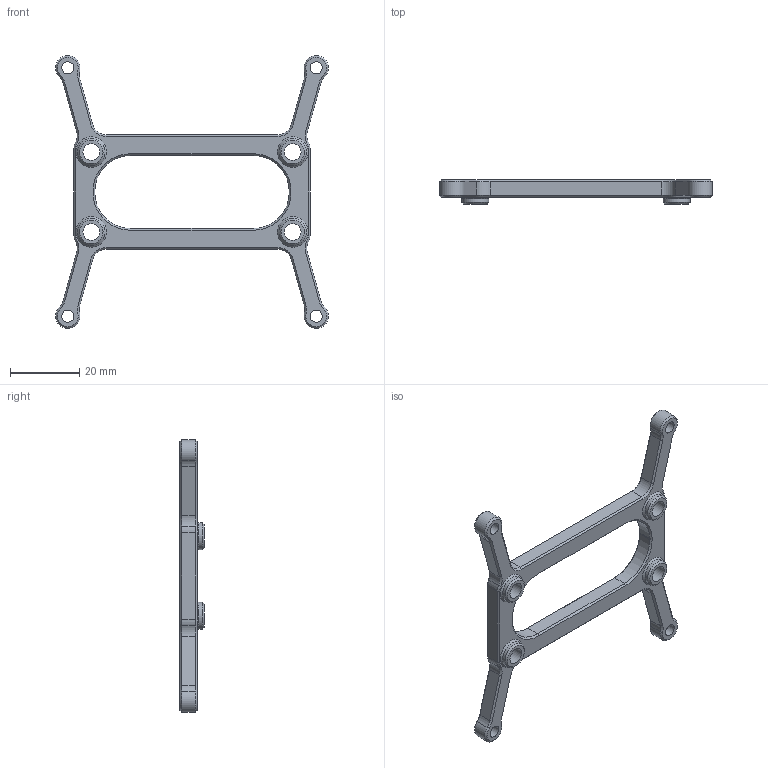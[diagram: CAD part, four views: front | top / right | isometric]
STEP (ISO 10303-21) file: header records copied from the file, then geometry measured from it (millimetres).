
FILE_DESCRIPTION(/* description */ (''),/* implementation_level */ '2;1');
FILE_NAME(/* name */ 'Pi Zero Mount.step',/* time_stamp */ '2025-04-12T16:36:26+02:00',/* author */ (''),/* organization */ (''),/* preprocessor_version */ 'ST-DEVELOPER v20.1',/* originating_system */ 'Autodesk Translation Framework v14.4.0.0',/* authorisation */ '');
FILE_SCHEMA (('AUTOMOTIVE_DESIGN { 1 0 10303 214 3 1 1 }'));
Length unit declared in the file: millimetre
Products named in the file (1): Pi Zero Mount
Bounding box: 78.48 x 7 x 78.48 mm (x, y, z)
Volume: 7794.7 mm3; surface area: 6118.4 mm2
Topology: 1 solids, 1 shells, 162 faces, 372 edges, 216 vertices
Faces by surface type: cone 68, plane 54, cylinder 40
Full cylindrical faces by diameter (mm): 3.5 x4, 4.8 x4, 7.8 x4
Entity records: 4576 total; most frequent: DIRECTION 850, CARTESIAN_POINT 751, ORIENTED_EDGE 744, EDGE_CURVE 372, AXIS2_PLACEMENT_3D 315, LINE 220, VECTOR 220, VERTEX_POINT 216
